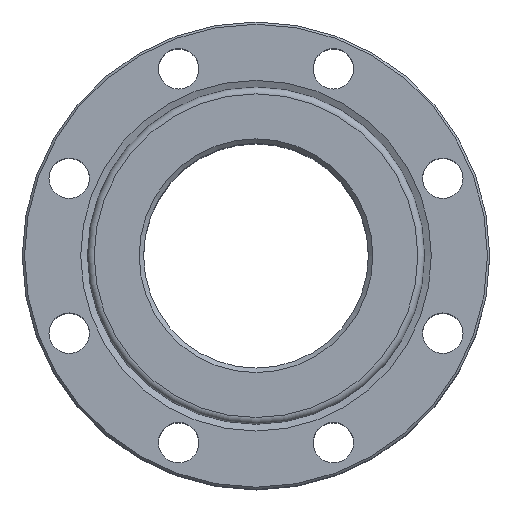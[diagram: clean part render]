
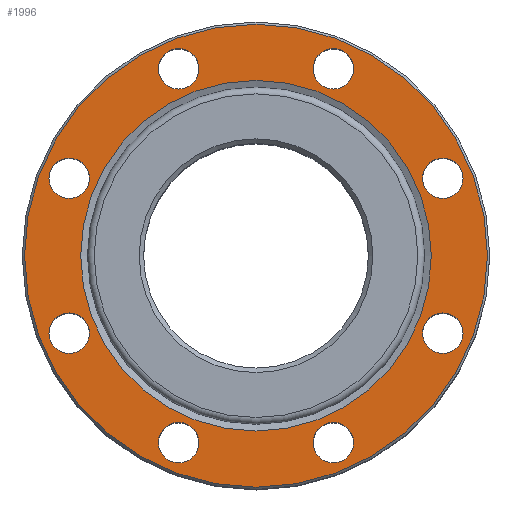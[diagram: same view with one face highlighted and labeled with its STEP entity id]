
A CAD part, top view. The second image highlights one B-rep face of the part: STEP entity #1996.
In plain terms, the highlighted planar face has unit normal (0, 0, 1).
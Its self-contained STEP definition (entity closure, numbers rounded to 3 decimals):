
#96=FACE_BOUND('',#502,.T.);
#97=FACE_BOUND('',#503,.T.);
#98=FACE_BOUND('',#504,.T.);
#99=FACE_BOUND('',#505,.T.);
#100=FACE_BOUND('',#506,.T.);
#101=FACE_BOUND('',#507,.T.);
#102=FACE_BOUND('',#508,.T.);
#103=FACE_BOUND('',#509,.T.);
#104=FACE_BOUND('',#510,.T.);
#113=PLANE('',#2162);
#367=FACE_OUTER_BOUND('',#501,.T.);
#501=EDGE_LOOP('',(#1351));
#502=EDGE_LOOP('',(#1352));
#503=EDGE_LOOP('',(#1353));
#504=EDGE_LOOP('',(#1354));
#505=EDGE_LOOP('',(#1355));
#506=EDGE_LOOP('',(#1356));
#507=EDGE_LOOP('',(#1357));
#508=EDGE_LOOP('',(#1358));
#509=EDGE_LOOP('',(#1359));
#510=EDGE_LOOP('',(#1360));
#704=CIRCLE('',#2161,103.);
#705=CIRCLE('',#2163,9.);
#706=CIRCLE('',#2164,9.);
#707=CIRCLE('',#2165,9.);
#708=CIRCLE('',#2166,9.);
#709=CIRCLE('',#2167,9.);
#710=CIRCLE('',#2168,9.);
#711=CIRCLE('',#2169,9.);
#712=CIRCLE('',#2170,9.);
#713=CIRCLE('',#2171,78.);
#853=VERTEX_POINT('',#3062);
#854=VERTEX_POINT('',#3066);
#855=VERTEX_POINT('',#3068);
#856=VERTEX_POINT('',#3070);
#857=VERTEX_POINT('',#3072);
#858=VERTEX_POINT('',#3074);
#859=VERTEX_POINT('',#3076);
#860=VERTEX_POINT('',#3078);
#861=VERTEX_POINT('',#3080);
#862=VERTEX_POINT('',#3082);
#1049=EDGE_CURVE('',#853,#853,#704,.T.);
#1050=EDGE_CURVE('',#854,#854,#705,.T.);
#1051=EDGE_CURVE('',#855,#855,#706,.T.);
#1052=EDGE_CURVE('',#856,#856,#707,.T.);
#1053=EDGE_CURVE('',#857,#857,#708,.T.);
#1054=EDGE_CURVE('',#858,#858,#709,.T.);
#1055=EDGE_CURVE('',#859,#859,#710,.T.);
#1056=EDGE_CURVE('',#860,#860,#711,.T.);
#1057=EDGE_CURVE('',#861,#861,#712,.T.);
#1058=EDGE_CURVE('',#862,#862,#713,.T.);
#1351=ORIENTED_EDGE('',*,*,#1049,.F.);
#1352=ORIENTED_EDGE('',*,*,#1050,.F.);
#1353=ORIENTED_EDGE('',*,*,#1051,.F.);
#1354=ORIENTED_EDGE('',*,*,#1052,.F.);
#1355=ORIENTED_EDGE('',*,*,#1053,.F.);
#1356=ORIENTED_EDGE('',*,*,#1054,.F.);
#1357=ORIENTED_EDGE('',*,*,#1055,.F.);
#1358=ORIENTED_EDGE('',*,*,#1056,.F.);
#1359=ORIENTED_EDGE('',*,*,#1057,.F.);
#1360=ORIENTED_EDGE('',*,*,#1058,.T.);
#1996=ADVANCED_FACE('',(#367,#96,#97,#98,#99,#100,#101,#102,#103,#104),
#113,.F.);
#2161=AXIS2_PLACEMENT_3D('',#3064,#2436,#2437);
#2162=AXIS2_PLACEMENT_3D('',#3065,#2438,#2439);
#2163=AXIS2_PLACEMENT_3D('',#3067,#2440,#2441);
#2164=AXIS2_PLACEMENT_3D('',#3069,#2442,#2443);
#2165=AXIS2_PLACEMENT_3D('',#3071,#2444,#2445);
#2166=AXIS2_PLACEMENT_3D('',#3073,#2446,#2447);
#2167=AXIS2_PLACEMENT_3D('',#3075,#2448,#2449);
#2168=AXIS2_PLACEMENT_3D('',#3077,#2450,#2451);
#2169=AXIS2_PLACEMENT_3D('',#3079,#2452,#2453);
#2170=AXIS2_PLACEMENT_3D('',#3081,#2454,#2455);
#2171=AXIS2_PLACEMENT_3D('',#3083,#2456,#2457);
#2436=DIRECTION('center_axis',(0.,0.,-1.));
#2437=DIRECTION('ref_axis',(-1.,0.,0.));
#2438=DIRECTION('center_axis',(0.,0.,-1.));
#2439=DIRECTION('ref_axis',(-1.,0.,0.));
#2440=DIRECTION('center_axis',(0.,0.,1.));
#2441=DIRECTION('ref_axis',(1.,0.,0.));
#2442=DIRECTION('center_axis',(0.,0.,1.));
#2443=DIRECTION('ref_axis',(1.,0.,0.));
#2444=DIRECTION('center_axis',(0.,0.,1.));
#2445=DIRECTION('ref_axis',(1.,0.,0.));
#2446=DIRECTION('center_axis',(0.,0.,1.));
#2447=DIRECTION('ref_axis',(1.,0.,0.));
#2448=DIRECTION('center_axis',(0.,0.,1.));
#2449=DIRECTION('ref_axis',(1.,0.,0.));
#2450=DIRECTION('center_axis',(0.,0.,1.));
#2451=DIRECTION('ref_axis',(1.,0.,0.));
#2452=DIRECTION('center_axis',(0.,0.,1.));
#2453=DIRECTION('ref_axis',(1.,0.,0.));
#2454=DIRECTION('center_axis',(0.,0.,1.));
#2455=DIRECTION('ref_axis',(1.,0.,0.));
#2456=DIRECTION('center_axis',(0.,0.,-1.));
#2457=DIRECTION('ref_axis',(0.,1.,0.));
#3062=CARTESIAN_POINT('',(103.,0.,71.));
#3064=CARTESIAN_POINT('Origin',(0.,0.,71.));
#3065=CARTESIAN_POINT('Origin',(0.,0.,71.));
#3066=CARTESIAN_POINT('',(-92.149,34.442,71.));
#3067=CARTESIAN_POINT('Origin',(-83.149,34.442,71.));
#3068=CARTESIAN_POINT('',(-92.149,-34.442,71.));
#3069=CARTESIAN_POINT('Origin',(-83.149,-34.442,71.));
#3070=CARTESIAN_POINT('',(-43.442,-83.149,71.));
#3071=CARTESIAN_POINT('Origin',(-34.442,-83.149,71.));
#3072=CARTESIAN_POINT('',(25.442,-83.149,71.));
#3073=CARTESIAN_POINT('Origin',(34.442,-83.149,71.));
#3074=CARTESIAN_POINT('',(74.149,-34.442,71.));
#3075=CARTESIAN_POINT('Origin',(83.149,-34.442,71.));
#3076=CARTESIAN_POINT('',(74.149,34.442,71.));
#3077=CARTESIAN_POINT('Origin',(83.149,34.442,71.));
#3078=CARTESIAN_POINT('',(25.442,83.149,71.));
#3079=CARTESIAN_POINT('Origin',(34.442,83.149,71.));
#3080=CARTESIAN_POINT('',(-43.442,83.149,71.));
#3081=CARTESIAN_POINT('Origin',(-34.442,83.149,71.));
#3082=CARTESIAN_POINT('',(0.,-78.,71.));
#3083=CARTESIAN_POINT('Origin',(0.,0.,71.));
